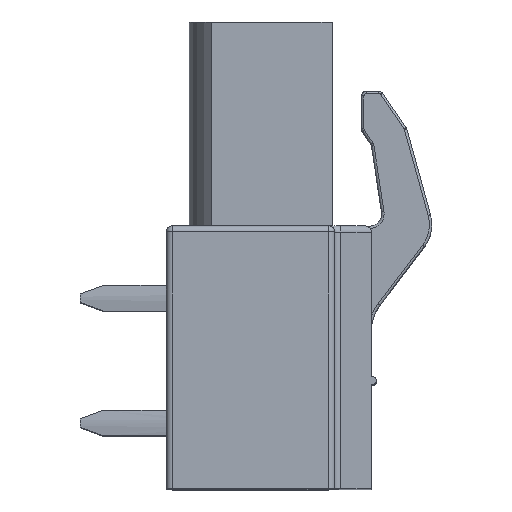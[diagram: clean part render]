
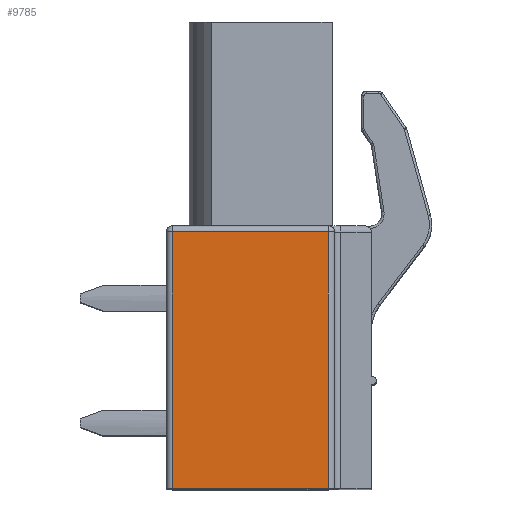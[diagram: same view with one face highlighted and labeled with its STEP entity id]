
A CAD part, top view. The second image highlights one B-rep face of the part: STEP entity #9785.
In plain terms, the highlighted planar face has unit normal (0, 0, 1).
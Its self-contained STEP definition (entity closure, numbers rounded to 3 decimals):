
#976=DIRECTION('',(1.,0.,0.));
#977=VECTOR('',#976,6.35);
#978=CARTESIAN_POINT('',(3.75,0.,-0.073));
#979=LINE('',#978,#977);
#2332=DIRECTION('',(-1.,0.,0.));
#2333=VECTOR('',#2332,6.35);
#2334=CARTESIAN_POINT('',(10.1,10.45,-0.073));
#2335=LINE('',#2334,#2333);
#2344=DIRECTION('',(0.,-1.,0.));
#2345=VECTOR('',#2344,10.45);
#2346=CARTESIAN_POINT('',(3.75,10.45,-0.073));
#2347=LINE('',#2346,#2345);
#2348=DIRECTION('',(0.,1.,0.));
#2349=VECTOR('',#2348,10.45);
#2350=CARTESIAN_POINT('',(10.1,0.,-0.073));
#2351=LINE('',#2350,#2349);
#5646=CARTESIAN_POINT('',(3.75,0.,-0.073));
#5647=VERTEX_POINT('',#5646);
#5648=CARTESIAN_POINT('',(10.1,0.,-0.073));
#5649=VERTEX_POINT('',#5648);
#6146=CARTESIAN_POINT('',(3.75,10.45,-0.073));
#6147=VERTEX_POINT('',#6146);
#6148=CARTESIAN_POINT('',(10.1,10.45,-0.073));
#6149=VERTEX_POINT('',#6148);
#9772=CARTESIAN_POINT('',(7.675,9.5,-0.073));
#9773=DIRECTION('',(0.,0.,1.));
#9774=DIRECTION('',(1.,0.,0.));
#9775=AXIS2_PLACEMENT_3D('',#9772,#9773,#9774);
#9776=PLANE('',#9775);
#9778=ORIENTED_EDGE('',*,*,#9777,.F.);
#9779=ORIENTED_EDGE('',*,*,#9763,.F.);
#9781=ORIENTED_EDGE('',*,*,#9780,.F.);
#9782=ORIENTED_EDGE('',*,*,#7993,.F.);
#9783=EDGE_LOOP('',(#9778,#9779,#9781,#9782));
#9784=FACE_OUTER_BOUND('',#9783,.F.);
#9785=ADVANCED_FACE('',(#9784),#9776,.T.);
#7993=EDGE_CURVE('',#5647,#5649,#979,.T.);
#9763=EDGE_CURVE('',#6149,#6147,#2335,.T.);
#9777=EDGE_CURVE('',#6147,#5647,#2347,.T.);
#9780=EDGE_CURVE('',#5649,#6149,#2351,.T.);
